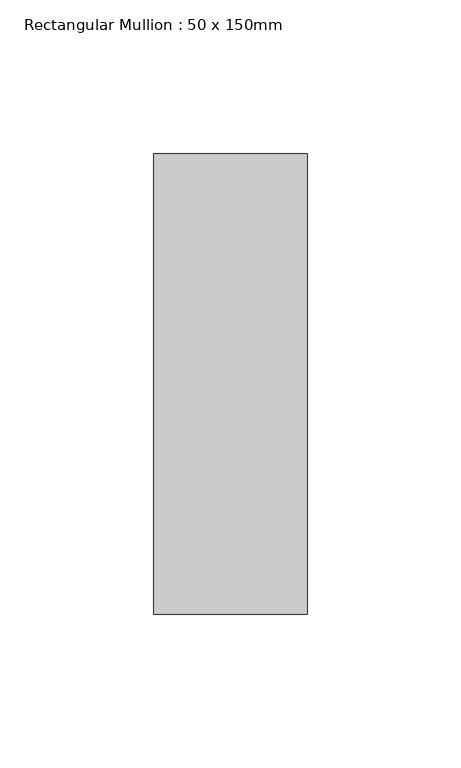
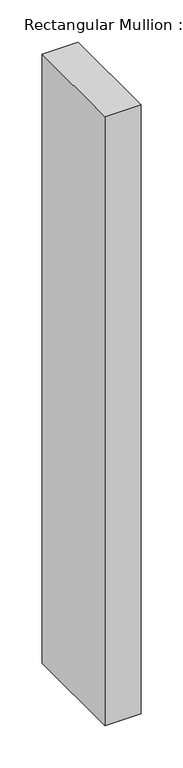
"""IFC4 building model written with IfcOpenShell, lengths in millimetres: member geometry, Rectangular Mullion : 50 x 150mm."""

from ifc_helpers import new_model, si_unit, frame, origin, place, context, project, spatial, polyline, outline, extrude, source, transform, mapped, element, save


def rectangular_mullion_50_x_150mm_34c8f61c(model_context):
    return source(origin(), model_context, "Body", "SweptSolid", [
        extrude(outline(polyline([(25.0, 75.0), (25.0, -75.0), (-25.0, -75.0), (-25.0, 75.0), (25.0, 75.0)])), frame((0.0, 0.0, -885.0), z_axis=(0.0, 0.0, 1.0), x_axis=(1.0, 0.0, 0.0)), (0.0, 0.0, 1.0), 885.0),
    ])


if __name__ == "__main__":
    model = new_model("IFC4")
    model_context = context("Model", 3, world=origin())
    ifc_project = project(units=[si_unit("LENGTHUNIT", "METRE", prefix="MILLI")], contexts=[model_context])
    site = spatial("IfcSite", under=ifc_project)
    building = spatial("IfcBuilding", under=site)
    placement = place(None, origin())
    rectangular_mullion_50_x_150mm_shape = rectangular_mullion_50_x_150mm_34c8f61c(model_context)
    element("IfcMember", 1, ObjectType="Rectangular Mullion : 50 x 150mm", at=placement, inside=building, context=model_context, shape_type="MappedRepresentation", body=[
        mapped(rectangular_mullion_50_x_150mm_shape, transform((0.0, 0.0, 0.0), x_axis=(1.0, 0.0, 0.0), y_axis=(0.0, 1.0, 0.0), z_axis=(0.0, 0.0, 1.0))),
    ])
    save(model, "model.ifc")
